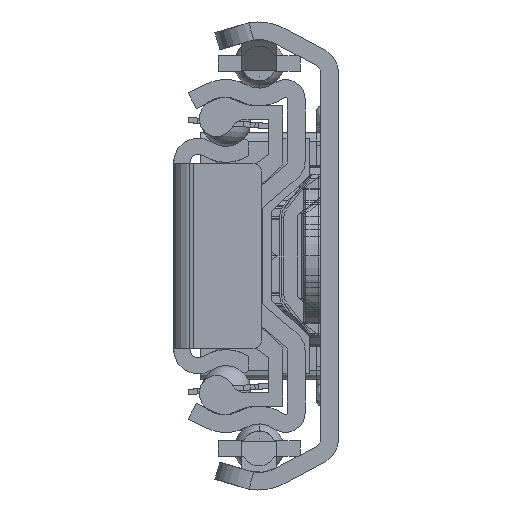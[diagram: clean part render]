
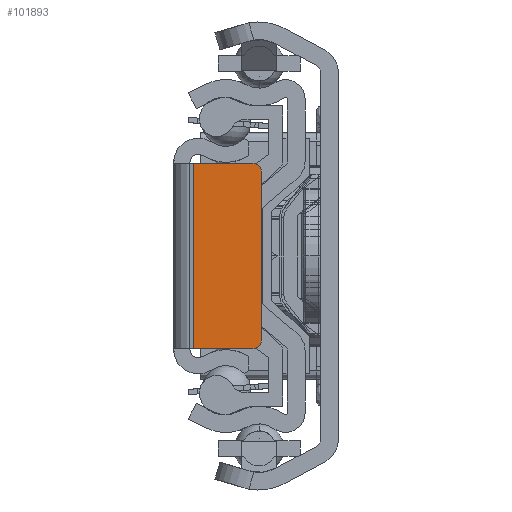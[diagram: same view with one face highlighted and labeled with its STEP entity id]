
A CAD part, left-side view. The second image highlights one B-rep face of the part: STEP entity #101893.
In plain terms, the highlighted planar face has unit normal (-1, 0, 0).
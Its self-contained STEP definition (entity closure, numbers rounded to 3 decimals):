
#94923=DIRECTION('',(0.,-1.,0.));
#94924=VECTOR('',#94923,6.7);
#94925=CARTESIAN_POINT('',(0.,-2.3,10.5));
#94926=LINE('',#94925,#94924);
#96146=DIRECTION('',(0.,-1.,0.));
#96147=VECTOR('',#96146,6.7);
#96148=CARTESIAN_POINT('',(0.,-2.3,-10.5));
#96149=LINE('',#96148,#96147);
#96150=CARTESIAN_POINT('',(0.,-9.,9.5));
#96151=DIRECTION('',(-1.,0.,0.));
#96152=DIRECTION('',(0.,-1.,0.));
#96153=AXIS2_PLACEMENT_3D('',#96150,#96151,#96152);
#96155=CARTESIAN_POINT('',(0.,-9.,-9.5));
#96156=DIRECTION('',(-1.,0.,0.));
#96157=DIRECTION('',(0.,0.,-1.));
#96158=AXIS2_PLACEMENT_3D('',#96155,#96156,#96157);
#96160=DIRECTION('',(0.,0.,1.));
#96161=VECTOR('',#96160,21.);
#96162=CARTESIAN_POINT('',(0.,-2.3,-10.5));
#96163=LINE('',#96162,#96161);
#96172=DIRECTION('',(0.,0.,1.));
#96173=VECTOR('',#96172,19.);
#96174=CARTESIAN_POINT('',(0.,-10.,-9.5));
#96175=LINE('',#96174,#96173);
#99807=CARTESIAN_POINT('',(0.,-2.3,-10.5));
#99808=CARTESIAN_POINT('',(0.,-2.3,10.5));
#99809=VERTEX_POINT('',#99807);
#99810=VERTEX_POINT('',#99808);
#99832=CARTESIAN_POINT('',(0.,-10.,9.5));
#99833=VERTEX_POINT('',#99832);
#99834=CARTESIAN_POINT('',(0.,-9.,10.5));
#99835=VERTEX_POINT('',#99834);
#99836=CARTESIAN_POINT('',(0.,-9.,-10.5));
#99837=CARTESIAN_POINT('',(0.,-10.,-9.5));
#99838=VERTEX_POINT('',#99836);
#99839=VERTEX_POINT('',#99837);
#101878=CARTESIAN_POINT('',(0.,-2.3,-10.5));
#101879=DIRECTION('',(-1.,0.,0.));
#101880=DIRECTION('',(0.,-1.,0.));
#101881=AXIS2_PLACEMENT_3D('',#101878,#101879,#101880);
#101882=PLANE('',#101881);
#101883=ORIENTED_EDGE('',*,*,#101175,.F.);
#101885=ORIENTED_EDGE('',*,*,#101884,.F.);
#101886=ORIENTED_EDGE('',*,*,#101869,.F.);
#101887=ORIENTED_EDGE('',*,*,#101859,.F.);
#101889=ORIENTED_EDGE('',*,*,#101888,.T.);
#101890=ORIENTED_EDGE('',*,*,#101152,.T.);
#101891=EDGE_LOOP('',(#101883,#101885,#101886,#101887,#101889,#101890));
#101892=FACE_OUTER_BOUND('',#101891,.F.);
#96154=CIRCLE('',#96153,1.);
#96159=CIRCLE('',#96158,1.);
#101152=EDGE_CURVE('',#99810,#99835,#94926,.T.);
#101175=EDGE_CURVE('',#99833,#99835,#96154,.T.);
#101859=EDGE_CURVE('',#99809,#99838,#96149,.T.);
#101869=EDGE_CURVE('',#99838,#99839,#96159,.T.);
#101884=EDGE_CURVE('',#99839,#99833,#96175,.T.);
#101888=EDGE_CURVE('',#99809,#99810,#96163,.T.);
#101893=ADVANCED_FACE('',(#101892),#101882,.T.);
